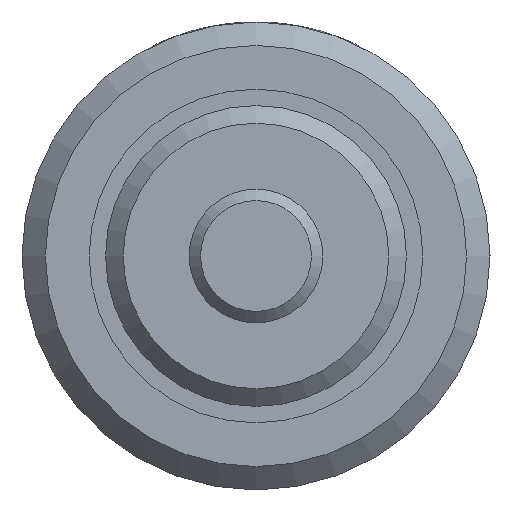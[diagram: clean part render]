
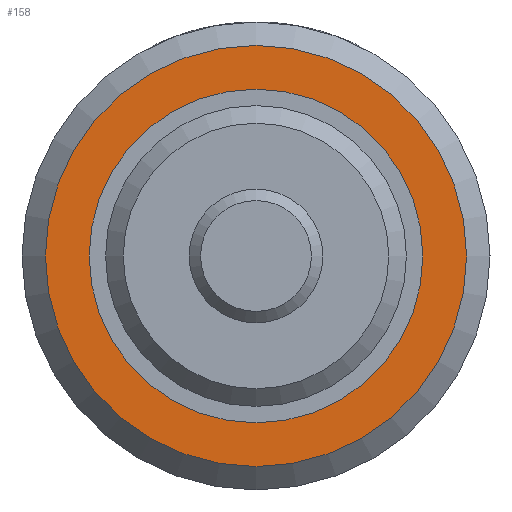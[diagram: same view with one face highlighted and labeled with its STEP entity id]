
A CAD part, left-side view. The second image highlights one B-rep face of the part: STEP entity #158.
In plain terms, the highlighted planar face has unit normal (-1, 0, 0).
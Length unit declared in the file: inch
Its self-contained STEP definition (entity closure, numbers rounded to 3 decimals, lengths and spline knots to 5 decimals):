
#158 = ADVANCED_FACE( '', ( #345, #346 ), #347, .F. );
#345 = FACE_OUTER_BOUND( '', #593, .T. );
#346 = FACE_BOUND( '', #594, .T. );
#347 = PLANE( '', #595 );
#593 = EDGE_LOOP( '', ( #884 ) );
#594 = EDGE_LOOP( '', ( #885 ) );
#595 = AXIS2_PLACEMENT_3D( '', #886, #887, #888 );
#884 = ORIENTED_EDGE( '', *, *, #1291, .F. );
#885 = ORIENTED_EDGE( '', *, *, #1279, .T. );
#886 = CARTESIAN_POINT( '', ( 0.5, 0.312, 0. ) );
#887 = DIRECTION( '', ( 1., 0., 0. ) );
#888 = DIRECTION( '', ( 0., 0., -1. ) );
#1279 = EDGE_CURVE( '', #1476, #1476, #1477, .T. );
#1291 = EDGE_CURVE( '', #1495, #1495, #1496, .T. );
#1476 = VERTEX_POINT( '', #1863 );
#1477 = CIRCLE( '', #1864, 0.312 );
#1495 = VERTEX_POINT( '', #1883 );
#1496 = CIRCLE( '', #1884, 0.39375 );
#1863 = CARTESIAN_POINT( '', ( 0.5, 0., -0.312 ) );
#1864 = AXIS2_PLACEMENT_3D( '', #2211, #2212, #2213 );
#1883 = CARTESIAN_POINT( '', ( 0.5, 0., -0.39375 ) );
#1884 = AXIS2_PLACEMENT_3D( '', #2233, #2234, #2235 );
#2211 = CARTESIAN_POINT( '', ( 0.5, 0., 0. ) );
#2212 = DIRECTION( '', ( 1., 0., 0. ) );
#2213 = DIRECTION( '', ( 0., 0., -1. ) );
#2233 = CARTESIAN_POINT( '', ( 0.5, 0., 0. ) );
#2234 = DIRECTION( '', ( 1., 0., 0. ) );
#2235 = DIRECTION( '', ( 0., 0., -1. ) );
